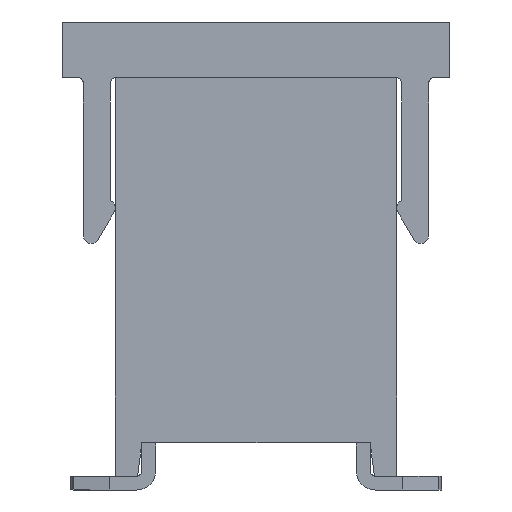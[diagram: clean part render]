
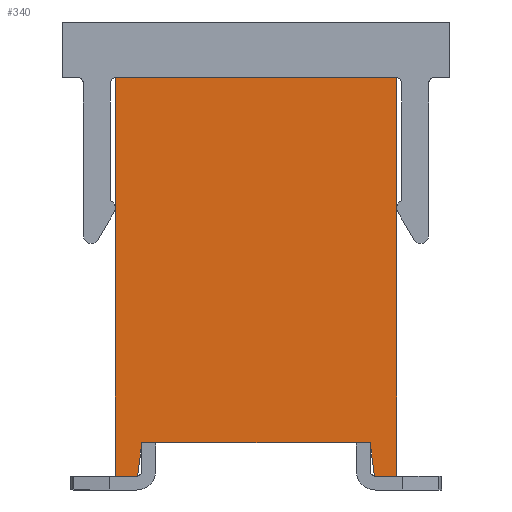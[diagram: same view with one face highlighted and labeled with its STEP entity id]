
A CAD part, left-side view. The second image highlights one B-rep face of the part: STEP entity #340.
In plain terms, the highlighted planar face has unit normal (-1, 0, 0).
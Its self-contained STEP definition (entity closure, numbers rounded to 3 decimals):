
#340=ADVANCED_FACE('',(#1569),#1570,.T.);
#1569=FACE_OUTER_BOUND('',#4086,.T.);
#1570=PLANE('',#4087);
#4086=EDGE_LOOP('',(#6842,#6843,#6844,#6845,#6846,#6847,#6848,#6849));
#4087=AXIS2_PLACEMENT_3D('',#6850,#6851,#6852);
#6842=ORIENTED_EDGE('',*,*,#16444,.F.);
#6843=ORIENTED_EDGE('',*,*,#16405,.F.);
#6844=ORIENTED_EDGE('',*,*,#16445,.F.);
#6845=ORIENTED_EDGE('',*,*,#16443,.F.);
#6846=ORIENTED_EDGE('',*,*,#16446,.T.);
#6847=ORIENTED_EDGE('',*,*,#16353,.T.);
#6848=ORIENTED_EDGE('',*,*,#16447,.F.);
#6849=ORIENTED_EDGE('',*,*,#16434,.F.);
#6850=CARTESIAN_POINT('',(-7.87,-2.54,-3.6));
#6851=DIRECTION('',(-1.0,0.0,0.0));
#6852=DIRECTION('',(0.0,0.0,1.0));
#16353=EDGE_CURVE('',#19655,#19652,#19656,.T.);
#16405=EDGE_CURVE('',#19757,#19759,#19760,.T.);
#16434=EDGE_CURVE('',#19815,#19817,#19818,.T.);
#16443=EDGE_CURVE('',#19829,#19827,#19831,.T.);
#16444=EDGE_CURVE('',#19759,#19815,#19832,.T.);
#16445=EDGE_CURVE('',#19827,#19757,#19833,.T.);
#16446=EDGE_CURVE('',#19829,#19655,#19834,.T.);
#16447=EDGE_CURVE('',#19817,#19652,#19835,.T.);
#19652=VERTEX_POINT('',#24850);
#19655=VERTEX_POINT('',#24854);
#19656=LINE('',#24855,#24856);
#19757=VERTEX_POINT('',#25007);
#19759=VERTEX_POINT('',#25010);
#19760=LINE('',#25011,#25012);
#19815=VERTEX_POINT('',#25094);
#19817=VERTEX_POINT('',#25097);
#19818=LINE('',#25098,#25099);
#19827=VERTEX_POINT('',#25114);
#19829=VERTEX_POINT('',#25117);
#19831=LINE('',#25120,#25121);
#19832=LINE('',#25122,#25123);
#19833=LINE('',#25124,#25125);
#19834=LINE('',#25126,#25127);
#19835=LINE('',#25128,#25129);
#24850=CARTESIAN_POINT('',(-7.87,2.54,3.6));
#24854=CARTESIAN_POINT('',(-7.87,-2.54,3.6));
#24855=CARTESIAN_POINT('',(-7.87,-2.54,3.6));
#24856=VECTOR('',#32067,1000.0);
#25007=CARTESIAN_POINT('',(-7.87,-2.06,-3.0));
#25010=CARTESIAN_POINT('',(-7.87,2.06,-3.0));
#25011=CARTESIAN_POINT('',(-7.87,-2.06,-3.0));
#25012=VECTOR('',#32119,1000.0);
#25094=CARTESIAN_POINT('',(-7.87,2.14,-3.6));
#25097=CARTESIAN_POINT('',(-7.87,2.54,-3.6));
#25098=CARTESIAN_POINT('',(-7.87,-2.54,-3.6));
#25099=VECTOR('',#32148,1000.0);
#25114=CARTESIAN_POINT('',(-7.87,-2.14,-3.6));
#25117=CARTESIAN_POINT('',(-7.87,-2.54,-3.6));
#25120=CARTESIAN_POINT('',(-7.87,-2.54,-3.6));
#25121=VECTOR('',#32157,1000.0);
#25122=CARTESIAN_POINT('',(-7.87,2.06,-3.0));
#25123=VECTOR('',#32158,1000.0);
#25124=CARTESIAN_POINT('',(-7.87,-2.06,-3.0));
#25125=VECTOR('',#32159,1000.0);
#25126=CARTESIAN_POINT('',(-7.87,-2.54,-3.6));
#25127=VECTOR('',#32160,1000.0);
#25128=CARTESIAN_POINT('',(-7.87,2.54,-3.6));
#25129=VECTOR('',#32161,1000.0);
#32067=DIRECTION('',(0.0,1.0,0.0));
#32119=DIRECTION('',(0.0,1.0,0.));
#32148=DIRECTION('',(0.0,1.0,0.0));
#32157=DIRECTION('',(0.0,1.0,0.0));
#32158=DIRECTION('',(0.0,0.132,-0.991));
#32159=DIRECTION('',(0.0,0.132,0.991));
#32160=DIRECTION('',(0.0,0.0,1.0));
#32161=DIRECTION('',(0.0,0.0,1.0));
